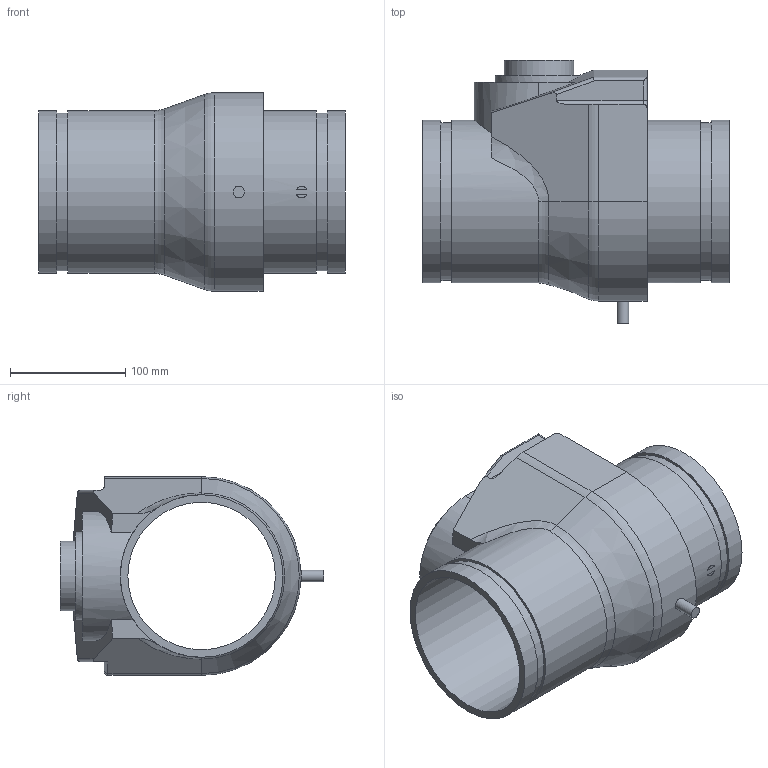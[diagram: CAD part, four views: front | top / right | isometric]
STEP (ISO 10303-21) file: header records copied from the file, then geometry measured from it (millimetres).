
FILE_DESCRIPTION(/* description */ ('VIC FIRELOCK CHECK VALVE SERIES 717','CAx-IF Rec.Pracs.---Representation and Presentation of Product Manufacturing Information (PMI)---4.0---2014-10-13'),/* implementation_level */ '2;1');
FILE_NAME(/* name */ 'C:\Users\Vjadhav\AppData\Roaming\Autodesk\ApplicationPlugins\Back Up\Victaulic_FP-FireLock_Valve Check_Series 717 (OGS)\Victaulic_FP-FireLock_Valve Check_5 (125).stp',/* time_stamp */ '2020-07-17T15:00:37+06:00',/* author */ ('kkamble'),/* organization */ ('Victaulic'),/* preprocessor_version */ 'ST-DEVELOPER v17.2',/* originating_system */ 'Autodesk Inventor 2019',/* authorisation */ '');
FILE_SCHEMA (('AP242_MANAGED_MODEL_BASED_3D_ENGINEERING_MIM_LF { 1 0 10303 442 1 1 4 }'));
Length unit declared in the file: inch
Products named in the file (2): 717-05.0; 717 - 05.0
Assembly tree (1 placements, depth 2):
  717-05.0
    717 - 05.0
Bounding box: 266.7 x 228.6 x 172.72 mm (x, y, z)
Volume: 2168561 mm3; surface area: 281415.5 mm2
Topology: 2 solids, 2 shells, 65 faces, 158 edges, 105 vertices
Faces by surface type: plane 31, cylinder 27, torus 4, bspline 2, cone 1
Full cylindrical faces by diameter (mm): 10.16 x1, 60.325 x1, 128.194 x1, 137.033 x2, 141.3 x4
Entity records: 2199 total; most frequent: CARTESIAN_POINT 447, DIRECTION 368, ORIENTED_EDGE 318, EDGE_CURVE 159, AXIS2_PLACEMENT_3D 147, VERTEX_POINT 107, EDGE_LOOP 76, LINE 74
